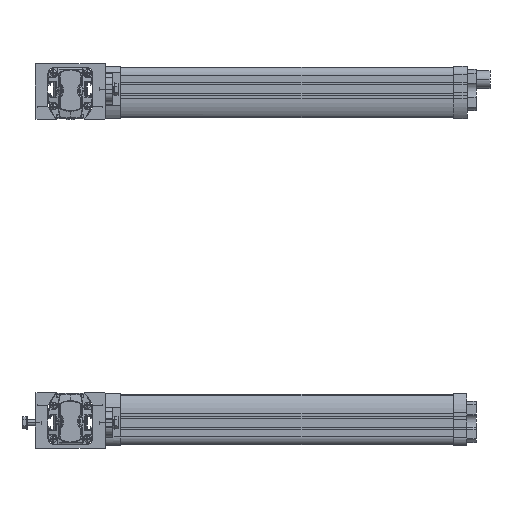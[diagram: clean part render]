
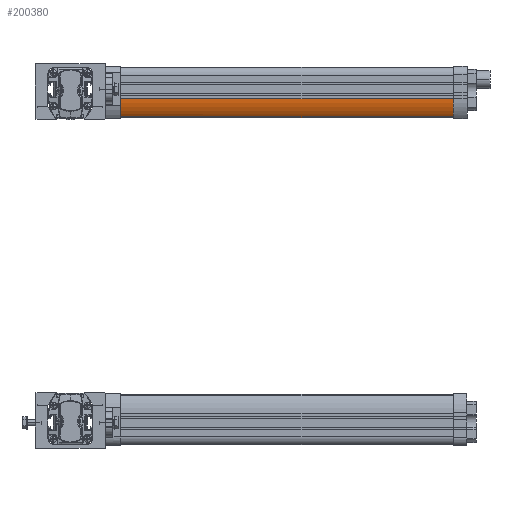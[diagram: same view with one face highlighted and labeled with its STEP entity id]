
A CAD part, front view. The second image highlights one B-rep face of the part: STEP entity #200380.
In plain terms, the highlighted cylindrical face has radius 23 mm (diameter 46 mm), a partial arc.
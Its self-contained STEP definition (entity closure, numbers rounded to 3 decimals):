
#197360=CARTESIAN_POINT('',(-48.775,-102.521,234.686));
#197361=DIRECTION('',(0.,0.,1.));
#197362=DIRECTION('',(0.849,0.529,0.));
#197363=AXIS2_PLACEMENT_3D('',#197360,#197361,#197362);
#197836=DIRECTION('',(0.,0.,-1.));
#197837=VECTOR('',#197836,264.);
#197838=CARTESIAN_POINT('',(-25.775,-102.521,234.686));
#197839=LINE('',#197838,#197837);
#197843=CARTESIAN_POINT('',(-48.775,-102.521,234.686));
#197844=DIRECTION('',(0.,0.,1.));
#197845=DIRECTION('',(1.,0.,0.));
#197846=AXIS2_PLACEMENT_3D('',#197843,#197844,#197845);
#197851=CARTESIAN_POINT('',(-48.775,-102.521,-29.314));
#197852=DIRECTION('',(0.,0.,1.));
#197853=DIRECTION('',(1.,0.,0.));
#197854=AXIS2_PLACEMENT_3D('',#197851,#197852,#197853);
#197866=DIRECTION('',(0.,0.,-1.));
#197867=VECTOR('',#197866,264.);
#197868=CARTESIAN_POINT('',(-31.243,-87.634,234.686));
#197869=LINE('',#197868,#197867);
#199256=CARTESIAN_POINT('',(-31.243,-87.634,234.686));
#199257=CARTESIAN_POINT('',(-31.243,-87.634,-29.314));
#199258=VERTEX_POINT('',#199256);
#199259=VERTEX_POINT('',#199257);
#199304=CARTESIAN_POINT('',(-25.775,-102.521,-29.314));
#199305=VERTEX_POINT('',#199304);
#199426=CARTESIAN_POINT('',(-25.775,-102.521,234.686));
#199427=VERTEX_POINT('',#199426);
#199438=CARTESIAN_POINT('',(-29.258,-90.352,234.686));
#199439=VERTEX_POINT('',#199438);
#200366=CARTESIAN_POINT('',(-48.775,-102.521,234.686));
#200367=DIRECTION('',(0.,0.,1.));
#200368=DIRECTION('',(1.,0.,0.));
#200369=AXIS2_PLACEMENT_3D('',#200366,#200367,#200368);
#200370=CYLINDRICAL_SURFACE('',#200369,23.);
#200371=ORIENTED_EDGE('',*,*,#200345,.F.);
#200372=ORIENTED_EDGE('',*,*,#199674,.T.);
#200373=ORIENTED_EDGE('',*,*,#199787,.T.);
#200375=ORIENTED_EDGE('',*,*,#200374,.T.);
#200377=ORIENTED_EDGE('',*,*,#200376,.F.);
#200378=EDGE_LOOP('',(#200371,#200372,#200373,#200375,#200377));
#200379=FACE_OUTER_BOUND('',#200378,.F.);
#200380=ADVANCED_FACE('',(#200379),#200370,.T.);
#197364=CIRCLE('',#197363,23.);
#197847=CIRCLE('',#197846,23.);
#197855=CIRCLE('',#197854,23.);
#199674=EDGE_CURVE('',#199427,#199439,#197847,.T.);
#199787=EDGE_CURVE('',#199439,#199258,#197364,.T.);
#200345=EDGE_CURVE('',#199427,#199305,#197839,.T.);
#200374=EDGE_CURVE('',#199258,#199259,#197869,.T.);
#200376=EDGE_CURVE('',#199305,#199259,#197855,.T.);
